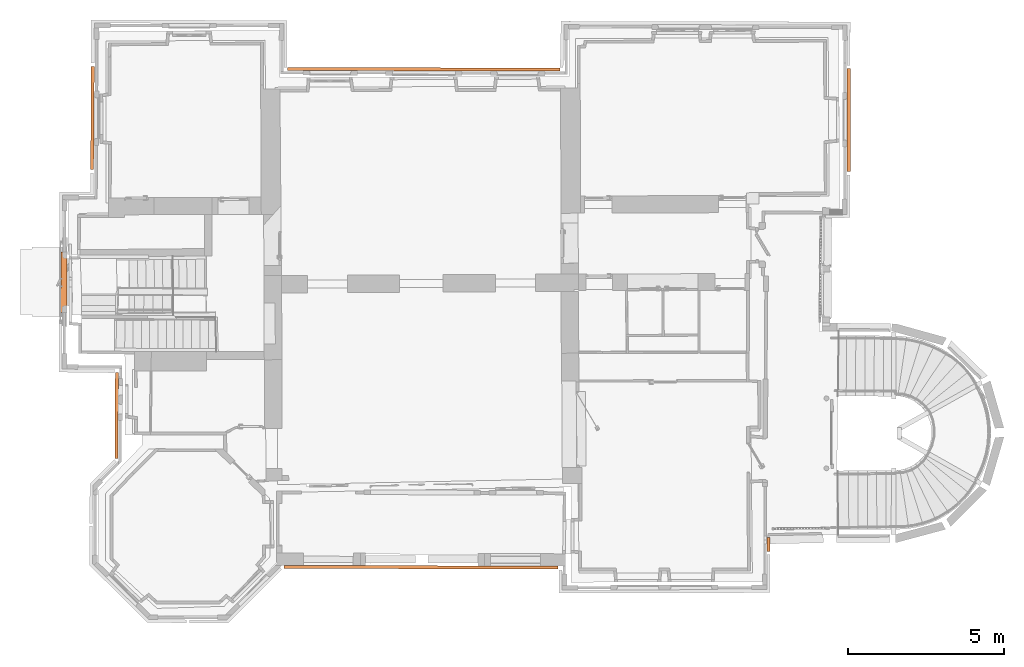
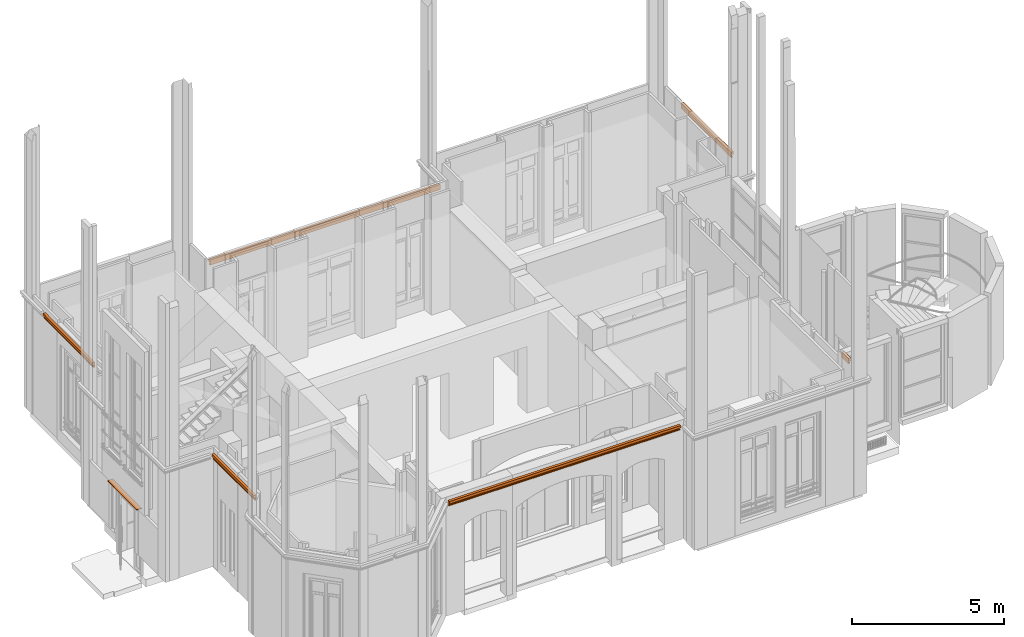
# One storey, part 82 of 97: 7 proxies.
"""IFC2X3 building model written with IfcOpenShell, lengths in centimetres."""

from ifc_helpers import new_model, entity, si_unit, converted_unit, point, direction, frame, frame_2d, origin, origin_with_axes, origin_2d_with_axis, place, context, subcontext, project, spatial, polyline, circle_curve, trimmed, segment, composite_curve, rectangle, outline, extrude, source, transform, mapped, material, type_object, element, save


model = new_model("IFC2X3")

# Units and contexts
model_context = context("Model", 3, precision=0.0001, world=origin(), true_north=direction((0.225632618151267, 0.974212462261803, 0.0)))
body_context = subcontext(model_context, "Body", "Model", "MODEL_VIEW")
ifc_project = project(units=[si_unit("LENGTHUNIT", "METRE", prefix="CENTI"), si_unit("AREAUNIT", "SQUARE_METRE", prefix="CENTI"), si_unit("VOLUMEUNIT", "CUBIC_METRE", prefix="CENTI"), converted_unit("PLANEANGLEUNIT", "DEGREE", entity("IfcRatioMeasure", 0.0174532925), si_unit("PLANEANGLEUNIT", "RADIAN"), dimensions=[0, 0, 0, 0, 0, 0, 0])], contexts=[model_context])

# Site, building, storey
site_placement = place(None, origin_with_axes())
site = spatial("IfcSite", under=ifc_project, at=site_placement, Name="Default Site", CompositionType="ELEMENT")
building_placement = place(site_placement, origin_with_axes())
building = spatial("IfcBuilding", under=site, at=building_placement, Name="Default Building", CompositionType="ELEMENT")
storey_placement = place(building_placement, origin_with_axes())
storey = spatial("IfcBuildingStorey", under=building, at=storey_placement, Name="Rez-de-chaussée", CompositionType="ELEMENT", Elevation=0.0)

# Proxies
ifc_material = material(Name="Aluminium mat")
building_element_proxy_type_1 = type_object("IfcBuildingElementProxyType", Name="Corniche niv1", PredefinedType="NOTDEFINED", material=ifc_material)
shared_shape_1 = source(origin_with_axes(), body_context, "Body", "SweptSolid", [
    extrude(outline(composite_curve([segment(trimmed(circle_curve(frame_2d((0.268889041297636, 10.5360105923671), x_axis=(1.0, 0.0)), 2.2994959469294), [point((1.31060948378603, 8.48601056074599))], [point((1.31060948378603, 12.5860106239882))], True, "CARTESIAN"), True, "CONTINUOUS"), segment(polyline([(1.31060948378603, 12.5860106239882), (-4.15787333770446, 12.5860106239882), (-4.15787333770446, -8.8139892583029), (5.82834186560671, -8.8139892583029), (5.82834186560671, 1.18601056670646), (-1.15787333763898, 1.18601056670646), (-1.15787333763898, 8.48601056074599), (1.31060948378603, 8.48601056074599)]), True, "CONTINUOUS")], self_intersect=False)), origin_with_axes(), (0.0, 0.0, 1.0), 100.0),
])
proxy_1_placement = place(storey_placement, frame((894.929367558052, -881.602992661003, 442.5), z_axis=(0.0, 1.0, 0.0), x_axis=(1.0, 0.0, 1.01064309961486e-15)))
element("IfcBuildingElementProxy", 1, at=proxy_1_placement, inside=storey, type_object=building_element_proxy_type_1, material=ifc_material, Name="Extrusion (solide) 956350", context=body_context, shape_type="MappedRepresentation", body=[
    mapped(shared_shape_1, transform((4.15787333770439, -12.5860106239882, 0.0), x_axis=(1.0, 0.0, 0.0), y_axis=(0.0, 1.0, 0.0), z_axis=(0.0, 0.0, -1.0), scale=1.0, scale2=1.0, scale3=0.451270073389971, uniform=False)),
])
proxy_2_placement = place(storey_placement, frame((1151.15006349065, 619.400746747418, 443.0), z_axis=(0.0, 1.0, 0.0), x_axis=(1.0, 0.0, 1.01064309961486e-15)))
element("IfcBuildingElementProxy", 2, at=proxy_2_placement, inside=storey, type_object=building_element_proxy_type_1, material=ifc_material, Name="Extrusion (solide) 956348", context=body_context, shape_type="MappedRepresentation", body=[
    mapped(shared_shape_1, transform((4.15787333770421, -12.5860106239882, 0.0), x_axis=(1.0, 0.0, 0.0), y_axis=(0.0, 1.0, 0.0), z_axis=(0.0, 0.0, -1.0), scale=1.0, scale2=1.0, scale3=3.30590746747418, uniform=False)),
])
proxy_3_placement = place(storey_placement, frame((-640.602929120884, 612.98, 442.0), z_axis=(-0.999996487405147, 0.00258792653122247, 0.000572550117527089), x_axis=(0.00258792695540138, 0.99999665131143, 1.01064223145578e-15)))
element("IfcBuildingElementProxy", 3, at=proxy_3_placement, inside=storey, type_object=building_element_proxy_type_1, material=ifc_material, Name="Extrusion (solide) 956346", context=body_context, shape_type="MappedRepresentation", body=[
    mapped(shared_shape_1, transform((4.15787333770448, -12.5860106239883, 8.88178419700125e-14), x_axis=(1.0, 1.6565123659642e-22, 1.44600530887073e-18), y_axis=(1.6565123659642e-22, 1.0, 0.0), z_axis=(-1.37321647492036e-18, 0.0, -1.0), scale=1.0, scale2=1.0, scale3=8.73285996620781, uniform=False)),
])
proxy_4_placement = place(storey_placement, frame((225.288964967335, -973.624224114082, 443.0), z_axis=(0.999995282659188, -0.00307158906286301, 0.0), x_axis=(-0.00307158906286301, -0.999995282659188, 1.01064309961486e-15)))
element("IfcBuildingElementProxy", 4, at=proxy_4_placement, inside=storey, type_object=building_element_proxy_type_1, material=ifc_material, Name="Extrusion (solide) 954634", context=body_context, shape_type="MappedRepresentation", body=[
    mapped(shared_shape_1, transform((4.15787333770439, -12.5860106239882, 0.0), x_axis=(1.0, 1.97215226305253e-31, 0.0), y_axis=(0.0, 1.0, 3.85185988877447e-34), z_axis=(-3.95762263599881e-19, -3.51507501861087e-34, -1.0), scale=1.0, scale2=1.0, scale3=8.76649259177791, uniform=False)),
])
proxy_5_placement = place(storey_placement, frame((-1260.8, 296.602145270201, 442.0), z_axis=(-0.00651949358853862, -0.999974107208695, 0.00304649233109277), x_axis=(-0.999978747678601, 0.00651952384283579, 1.01064583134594e-15)))
element("IfcBuildingElementProxy", 5, at=proxy_5_placement, inside=storey, type_object=building_element_proxy_type_1, material=ifc_material, Name="Extrusion (solide) 956344", context=body_context, shape_type="MappedRepresentation", body=[
    mapped(shared_shape_1, transform((4.15787333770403, -12.5860106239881, -4.44089209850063e-14), x_axis=(1.0, -5.47440840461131e-21, -3.90511855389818e-19), y_axis=(-5.47440840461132e-21, 1.0, 0.0), z_axis=(1.14892231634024e-18, 0.0, -1.0), scale=1.0, scale2=1.0, scale3=3.28246353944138, uniform=False)),
])
proxy_6_placement = place(storey_placement, frame((-1182.7, -629.758083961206, 443.0), z_axis=(-0.00358643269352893, -0.999991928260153, 0.00181132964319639), x_axis=(-0.999993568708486, 0.00358643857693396, 1.01064074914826e-15)))
element("IfcBuildingElementProxy", 6, at=proxy_6_placement, inside=storey, type_object=building_element_proxy_type_1, material=ifc_material, Name="Extrusion (solide) 954638", context=body_context, shape_type="MappedRepresentation", body=[
    mapped(shared_shape_1, transform((4.15787333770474, -12.5860106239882, 0.0), x_axis=(1.0, 1.657915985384e-21, 9.63243343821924e-19), y_axis=(8.10883038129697e-22, 1.0, 0.0), z_axis=(-1.20217387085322e-18, 3.14215605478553e-19, -1.0), scale=1.0, scale2=1.0, scale3=2.76040312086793, uniform=False)),
])
building_element_proxy_type_2 = type_object("IfcBuildingElementProxyType", Name="Base [R] 200x30mm", PredefinedType="NOTDEFINED", material=ifc_material)
shared_shape_2 = source(origin_with_axes(), body_context, "Body", "SweptSolid", [
    extrude(rectangle(XDim=20.0, YDim=3.0, at=origin_2d_with_axis()), origin_with_axes(), (0.0, 0.0, 1.0), 100.0),
])
proxy_7_placement = place(storey_placement, frame((-1345.51764903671, 31.9547061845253, 185.0), z_axis=(0.00600346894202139, 0.999981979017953, 0.0), x_axis=(0.999981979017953, -0.00600346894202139, 5.66553889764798e-16)))
element("IfcBuildingElementProxy", 7, at=proxy_7_placement, inside=storey, type_object=building_element_proxy_type_2, material=ifc_material, Name="Extrusion (solide) 394737", context=body_context, shape_type="MappedRepresentation", body=[
    mapped(shared_shape_2, transform((-10.0000000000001, 1.49999999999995, -8.32667268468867e-15), x_axis=(1.0, 0.0, -8.67361737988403e-19), y_axis=(9.86076131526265e-32, 1.0, -1.71056941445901e-49), z_axis=(2.18228620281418e-49, -3.85185988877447e-34, -1.0), scale=1.0, scale2=1.0, scale3=1.93658248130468, uniform=False)),
])

save(model, "model.ifc")
